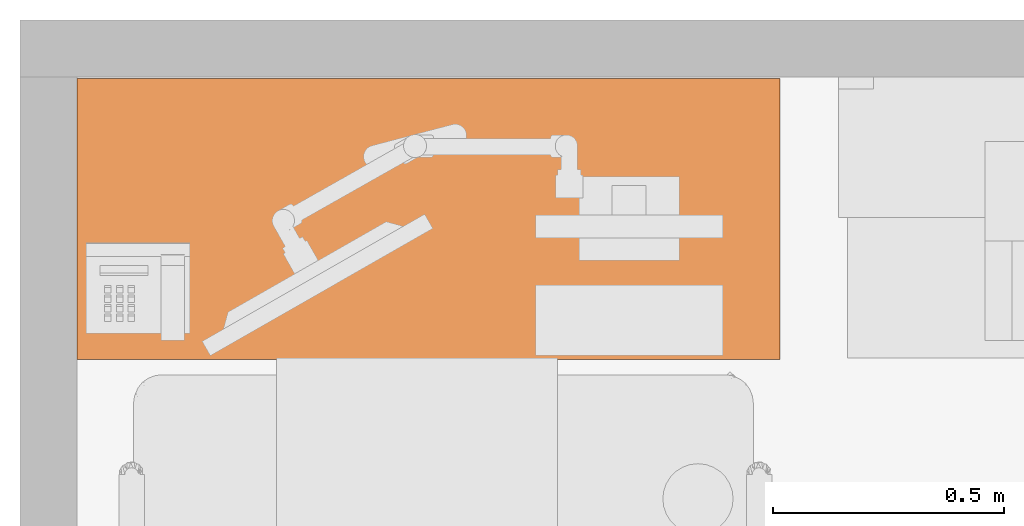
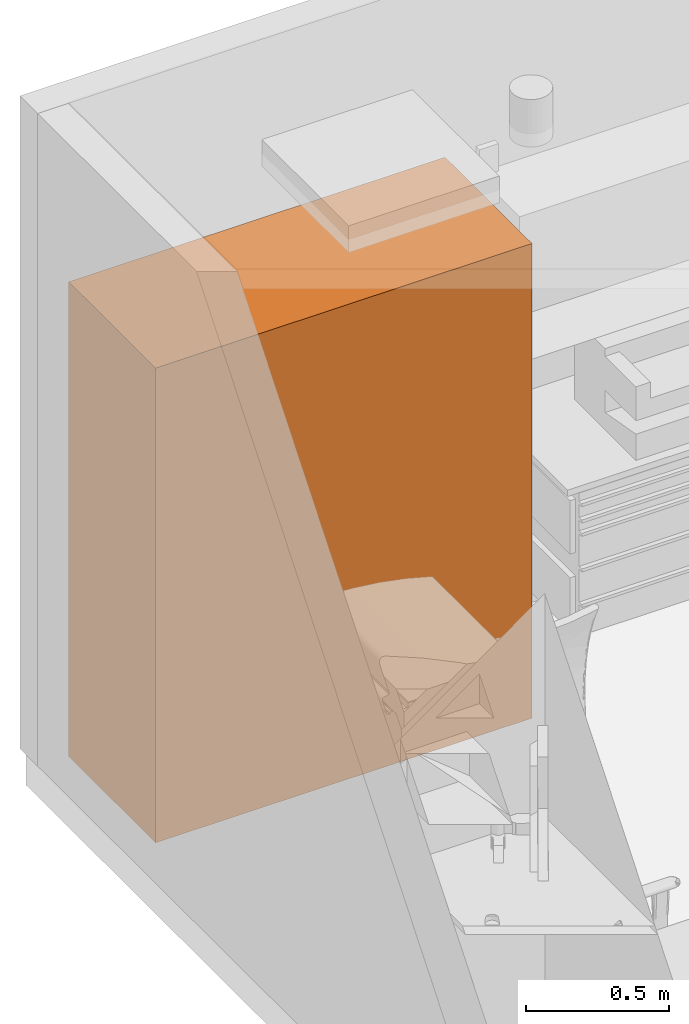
# One storey, part 12 of 15: 1 proxy.
"""IFC2X3 building model written with IfcOpenShell, lengths in feet."""

from ifc_helpers import new_model, entity, si_unit, converted_unit, derived_unit, direction, frame, origin, place, context, subcontext, project, spatial, face_set, surface_model, source, transform, mapped, material, type_object, type_shapes, element, save


model = new_model("IFC2X3")

# Units and contexts
model_context = context("Model", 3, precision=0.0001, world=origin(), true_north=direction((6.12303176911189e-17, 1.0)))
body_context = subcontext(model_context, "Body", "Model", "MODEL_VIEW")
ifc_project = project(units=[converted_unit("LENGTHUNIT", "FOOT", entity("IfcRatioMeasure", 0.3048), si_unit("LENGTHUNIT", "METRE"), dimensions=[1, 0, 0, 0, 0, 0, 0]), converted_unit("AREAUNIT", "SQUARE FOOT", entity("IfcRatioMeasure", 0.09290304), si_unit("AREAUNIT", "SQUARE_METRE"), dimensions=[2, 0, 0, 0, 0, 0, 0]), converted_unit("VOLUMEUNIT", "CUBIC FOOT", entity("IfcRatioMeasure", 0.028316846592), si_unit("VOLUMEUNIT", "CUBIC_METRE"), dimensions=[3, 0, 0, 0, 0, 0, 0]), converted_unit("PLANEANGLEUNIT", "DEGREE", entity("IfcRatioMeasure", 0.0174532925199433), si_unit("PLANEANGLEUNIT", "RADIAN"), dimensions=[0, 0, 0, 0, 0, 0, 0]), si_unit("MASSUNIT", "GRAM", prefix="KILO"), derived_unit("MASSDENSITYUNIT", [(si_unit("MASSUNIT", "GRAM", prefix="KILO"), 1), (si_unit("LENGTHUNIT", "METRE"), -3)]), si_unit("TIMEUNIT", "SECOND"), si_unit("FREQUENCYUNIT", "HERTZ"), si_unit("THERMODYNAMICTEMPERATUREUNIT", "DEGREE_CELSIUS"), derived_unit("THERMALTRANSMITTANCEUNIT", [(si_unit("MASSUNIT", "GRAM", prefix="KILO"), 1), (si_unit("THERMODYNAMICTEMPERATUREUNIT", "KELVIN"), -1), (si_unit("TIMEUNIT", "SECOND"), -3)]), derived_unit("VOLUMETRICFLOWRATEUNIT", [(si_unit("LENGTHUNIT", "METRE"), 3), (si_unit("TIMEUNIT", "SECOND"), -1)]), si_unit("ELECTRICCURRENTUNIT", "AMPERE"), si_unit("ELECTRICVOLTAGEUNIT", "VOLT"), si_unit("POWERUNIT", "WATT"), si_unit("FORCEUNIT", "NEWTON"), si_unit("ILLUMINANCEUNIT", "LUX"), si_unit("LUMINOUSFLUXUNIT", "LUMEN"), si_unit("LUMINOUSINTENSITYUNIT", "CANDELA"), derived_unit("USERDEFINED", [(si_unit("MASSUNIT", "GRAM", prefix="KILO"), -1), (si_unit("LENGTHUNIT", "METRE"), -2), (si_unit("TIMEUNIT", "SECOND"), 3), (si_unit("LUMINOUSFLUXUNIT", "LUMEN"), 1)]), derived_unit("LINEARVELOCITYUNIT", [(si_unit("LENGTHUNIT", "METRE"), 1), (si_unit("TIMEUNIT", "SECOND"), -1)]), si_unit("PRESSUREUNIT", "PASCAL"), derived_unit("USERDEFINED", [(si_unit("LENGTHUNIT", "METRE"), -2), (si_unit("MASSUNIT", "GRAM", prefix="KILO"), 1), (si_unit("TIMEUNIT", "SECOND"), -2)])], contexts=[model_context])

# Site, building, storey, space
site_placement = place(None, origin())
site = spatial("IfcSite", under=ifc_project, at=site_placement, Name="Default", CompositionType="ELEMENT")
building_placement = place(site_placement, origin())
building = spatial("IfcBuilding", under=site, at=building_placement, Name="EYE CLINIC:  OPTHALMOLOGY AND OPTOMETRY SERVICES (Ch. 233)", CompositionType="ELEMENT")
storey_placement = place(building_placement, origin())
storey = spatial("IfcBuildingStorey", under=building, at=storey_placement, Name="DATUM", CompositionType="ELEMENT", Elevation=0.0)
space_placement = place(storey_placement, origin())
space = spatial("IfcSpace", under=storey, at=space_placement, Name="(OPLV2)", CompositionType="ELEMENT", InteriorOrExteriorSpace="INTERNAL")

# Proxy
ifc_material = material(Name="EquipSpace")
building_element_proxy_type = type_object("IfcBuildingElementProxyType", Name="E0214 - Worksurface, with Overhead Cab, Wall Mtd, 60 W (1)", PredefinedType="NOTDEFINED", material=ifc_material)
shared_shape = source(origin(), body_context, "Body", "SurfaceModel", [
    surface_model("IfcFaceBasedSurfaceModel", [(2.41666666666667, -0.833333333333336, 2.9158857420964), (2.41666666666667, 0.916666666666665, 2.91588574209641), (2.41666666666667, 0.916666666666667, 1.99921907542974), (2.41666666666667, 0.812499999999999, 1.99921907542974), (2.41666666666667, 0.774755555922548, 2.00418822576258), (2.41666666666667, 0.739583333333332, 2.01875703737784), (2.41666666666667, 0.70938026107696, 2.04193266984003), (2.41666666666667, 0.686204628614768, 2.0721357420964), (2.41666666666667, 0.671635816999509, 2.10730796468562), (2.41666666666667, 0.666666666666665, 2.14505240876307), (2.41666666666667, 0.666666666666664, 2.74921907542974), (2.41666666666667, 0.663827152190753, 2.77078732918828), (2.41666666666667, 0.655502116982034, 2.7908857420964), (2.41666666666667, 0.64225889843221, 2.80814464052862), (2.41666666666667, 0.624999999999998, 2.82138785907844), (2.41666666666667, 0.604901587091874, 2.82971289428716), (2.41666666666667, 0.583333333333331, 2.83255240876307), (2.41666666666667, -0.779058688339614, 2.83255240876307), (2.41666666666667, -0.793106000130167, 2.83440177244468), (2.41666666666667, -0.806196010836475, 2.83982383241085), (2.41666666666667, -0.817436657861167, 2.84844908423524), (2.41666666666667, -0.826061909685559, 2.85968973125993), (2.41666666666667, -0.831483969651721, 2.87277974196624), (2.41666666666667, -0.833333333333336, 2.88682705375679), (2.5, 0.666666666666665, 2.14505240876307), (2.5, 0.671635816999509, 2.10730796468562), (2.5, 0.686204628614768, 2.0721357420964), (2.5, 0.70938026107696, 2.04193266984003), (2.5, 0.739583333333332, 2.01875703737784), (2.5, 0.774755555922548, 2.00418822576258), (2.5, 0.812499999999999, 1.99921907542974), (2.5, 0.916666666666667, 1.99921907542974), (2.5, 0.916666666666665, 2.91588574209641), (2.5, -0.833333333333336, 2.9158857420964), (2.5, -0.833333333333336, 2.88682705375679), (2.5, -0.831483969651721, 2.87277974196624), (2.5, -0.826061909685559, 2.85968973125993), (2.5, -0.817436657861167, 2.84844908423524), (2.5, -0.806196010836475, 2.83982383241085), (2.5, -0.793106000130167, 2.83440177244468), (2.5, -0.779058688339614, 2.83255240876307), (2.5, 0.583333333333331, 2.83255240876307), (2.5, 0.604901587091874, 2.82971289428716), (2.5, 0.624999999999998, 2.82138785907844), (2.5, 0.64225889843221, 2.80814464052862), (2.5, 0.655502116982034, 2.7908857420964), (2.5, 0.663827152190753, 2.77078732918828), (2.5, 0.666666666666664, 2.74921907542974), (-2.41666666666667, 0.666666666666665, 2.14505240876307), (-2.41666666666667, 0.671635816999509, 2.10730796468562), (-2.41666666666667, 0.686204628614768, 2.0721357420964), (-2.41666666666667, 0.709380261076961, 2.04193266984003), (-2.41666666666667, 0.739583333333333, 2.01875703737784), (-2.41666666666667, 0.774755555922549, 2.00418822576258), (-2.41666666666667, 0.812499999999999, 1.99921907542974), (-2.41666666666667, 0.916666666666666, 1.99921907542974), (-2.41666666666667, 0.916666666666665, 2.91588574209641), (-2.41666666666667, -0.833333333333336, 2.9158857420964), (-2.41666666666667, -0.833333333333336, 2.88682705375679), (-2.41666666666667, -0.831483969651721, 2.87277974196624), (-2.41666666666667, -0.826061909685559, 2.85968973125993), (-2.41666666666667, -0.817436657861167, 2.84844908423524), (-2.41666666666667, -0.806196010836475, 2.83982383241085), (-2.41666666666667, -0.793106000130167, 2.83440177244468), (-2.41666666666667, -0.779058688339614, 2.83255240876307), (-2.41666666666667, 0.583333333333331, 2.83255240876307), (-2.41666666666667, 0.604901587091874, 2.82971289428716), (-2.41666666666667, 0.624999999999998, 2.82138785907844), (-2.41666666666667, 0.64225889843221, 2.80814464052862), (-2.41666666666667, 0.655502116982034, 2.7908857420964), (-2.41666666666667, 0.663827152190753, 2.77078732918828), (-2.41666666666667, 0.666666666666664, 2.74921907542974), (-2.5, -0.833333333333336, 2.9158857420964), (-2.5, 0.916666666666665, 2.91588574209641), (-2.5, 0.916666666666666, 1.99921907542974), (-2.5, 0.812499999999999, 1.99921907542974), (-2.5, 0.774755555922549, 2.00418822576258), (-2.5, 0.739583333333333, 2.01875703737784), (-2.5, 0.709380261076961, 2.04193266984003), (-2.5, 0.686204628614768, 2.0721357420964), (-2.5, 0.671635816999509, 2.10730796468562), (-2.5, 0.666666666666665, 2.14505240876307), (-2.5, 0.666666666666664, 2.74921907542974), (-2.5, 0.663827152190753, 2.77078732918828), (-2.5, 0.655502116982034, 2.7908857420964), (-2.5, 0.64225889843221, 2.80814464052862), (-2.5, 0.624999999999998, 2.82138785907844), (-2.5, 0.604901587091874, 2.82971289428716), (-2.5, 0.583333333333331, 2.83255240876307), (-2.5, -0.779058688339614, 2.83255240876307), (-2.5, -0.793106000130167, 2.83440177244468), (-2.5, -0.806196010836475, 2.83982383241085), (-2.5, -0.817436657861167, 2.84844908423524), (-2.5, -0.826061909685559, 2.85968973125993), (-2.5, -0.831483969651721, 2.87277974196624), (-2.5, -0.833333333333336, 2.88682705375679), (2.5, -1.0, 2.99921907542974), (2.5, -1.0, 2.9158857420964), (2.5, 0.916666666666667, 2.91588574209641), (2.5, 0.916666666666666, 2.99921907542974), (-2.5, -1.0, 2.99921907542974), (-2.5, 0.916666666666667, 2.99921907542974), (-2.5, 0.916666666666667, 2.91588574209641), (-2.5, -1.0, 2.9158857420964), (0.0625000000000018, 0.0833333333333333, 4.62161490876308), (0.0625000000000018, 0.916666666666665, 4.62161490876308), (0.0625000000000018, 0.916666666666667, 3.95494824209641), (0.0625000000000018, 0.0833333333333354, 3.95494824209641), (2.41666666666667, 0.0833333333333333, 4.62161490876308), (2.41666666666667, 0.0833333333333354, 3.95494824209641), (2.41666666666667, 0.916666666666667, 3.95494824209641), (2.41666666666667, 0.916666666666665, 4.62161490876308), (0.121853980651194, 0.0833333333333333, 4.62161490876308), (0.121853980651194, 0.803690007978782, 4.62161490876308), (2.35416666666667, 0.803690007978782, 4.62161490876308), (2.35416666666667, 0.0833333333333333, 4.62161490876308), (2.35416666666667, 0.0833333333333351, 4.03828157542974), (0.121853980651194, 0.0833333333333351, 4.03828157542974), (-0.0625000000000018, 0.0833333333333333, 4.62161490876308), (-0.0625000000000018, 0.0833333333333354, 3.95494824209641), (-0.0625000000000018, 0.916666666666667, 3.95494824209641), (-0.0625000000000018, 0.916666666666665, 4.62161490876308), (-2.41666666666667, 0.0833333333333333, 4.62161490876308), (-2.41666666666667, 0.916666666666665, 4.62161490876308), (-2.41666666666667, 0.916666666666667, 3.95494824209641), (-2.41666666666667, 0.0833333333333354, 3.95494824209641), (-2.35416666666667, 0.0833333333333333, 4.62161490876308), (-2.35416666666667, 0.803690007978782, 4.62161490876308), (-0.121853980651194, 0.803690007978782, 4.62161490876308), (-0.121853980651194, 0.0833333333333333, 4.62161490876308), (-0.121853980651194, 0.0833333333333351, 4.03828157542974), (-2.35416666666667, 0.0833333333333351, 4.03828157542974), (-1.28125, -0.0833333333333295, 5.01744824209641), (-1.27983024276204, -0.0833333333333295, 5.02823236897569), (-1.27566772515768, -0.0833333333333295, 5.03828157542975), (-1.26904611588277, -0.0833333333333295, 5.04691102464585), (-1.26041666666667, -0.0833333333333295, 5.05353263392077), (-1.2503674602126, -0.0833333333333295, 5.05769515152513), (-1.23958333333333, -0.0833333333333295, 5.05911490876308), (-1.22879920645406, -0.0833333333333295, 5.05769515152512), (-1.21875, -0.0833333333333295, 5.05353263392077), (-1.21012055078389, -0.0833333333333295, 5.04691102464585), (-1.20349894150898, -0.0833333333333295, 5.03828157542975), (-1.19933642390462, -0.0833333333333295, 5.02823236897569), (-1.19791666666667, -0.0833333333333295, 5.01744824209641), (-1.19933642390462, -0.0833333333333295, 5.00666411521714), (-1.20349894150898, -0.0833333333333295, 4.99661490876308), (-1.21012055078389, -0.0833333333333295, 4.98798545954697), (-1.21875, -0.0833333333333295, 4.98136385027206), (-1.22879920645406, -0.0833333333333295, 4.9772013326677), (-1.23958333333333, -0.0833333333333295, 4.97578157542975), (-1.2503674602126, -0.0833333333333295, 4.9772013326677), (-1.26041666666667, -0.0833333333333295, 4.98136385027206), (-1.26904611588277, -0.0833333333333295, 4.98798545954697), (-1.27566772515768, -0.0833333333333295, 4.99661490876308), (-1.27983024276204, -0.0833333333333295, 5.00666411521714), (-1.28125, -0.109888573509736, 5.01744824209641), (-1.27983024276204, -0.109888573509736, 5.00666411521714), (-1.27566772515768, -0.109888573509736, 4.99661490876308), (-1.26904611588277, -0.109888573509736, 4.98798545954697), (-1.26041666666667, -0.109888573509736, 4.98136385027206), (-1.2503674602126, -0.109888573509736, 4.9772013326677), (-1.23958333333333, -0.109888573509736, 4.97578157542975), (-1.22879920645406, -0.109888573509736, 4.9772013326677), (-1.21875, -0.109888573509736, 4.98136385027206), (-1.21012055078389, -0.109888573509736, 4.98798545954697), (-1.20349894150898, -0.109888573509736, 4.99661490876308), (-1.19933642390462, -0.109888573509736, 5.00666411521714), (-1.19791666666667, -0.109888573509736, 5.01744824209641), (-1.19933642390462, -0.109888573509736, 5.02823236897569), (-1.20349894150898, -0.109888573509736, 5.03828157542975), (-1.21012055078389, -0.109888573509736, 5.04691102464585), (-1.21875, -0.109888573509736, 5.05353263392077), (-1.22879920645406, -0.109888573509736, 5.05769515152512), (-1.23958333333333, -0.109888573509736, 5.05911490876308), (-1.2503674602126, -0.109888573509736, 5.05769515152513), (-1.26041666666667, -0.109888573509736, 5.05353263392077), (-1.26904611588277, -0.109888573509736, 5.04691102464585), (-1.27566772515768, -0.109888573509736, 5.03828157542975), (-1.27983024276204, -0.109888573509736, 5.02823236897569), (1.28125, -0.0833333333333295, 5.01744824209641), (1.27983024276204, -0.0833333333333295, 5.00666411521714), (1.27566772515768, -0.0833333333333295, 4.99661490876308), (1.26904611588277, -0.0833333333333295, 4.98798545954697), (1.26041666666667, -0.0833333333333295, 4.98136385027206), (1.2503674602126, -0.0833333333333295, 4.9772013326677), (1.23958333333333, -0.0833333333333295, 4.97578157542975), (1.22879920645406, -0.0833333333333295, 4.9772013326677), (1.21875, -0.0833333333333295, 4.98136385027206), (1.21012055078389, -0.0833333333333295, 4.98798545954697), (1.20349894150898, -0.0833333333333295, 4.99661490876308), (1.19933642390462, -0.0833333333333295, 5.00666411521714), (1.19791666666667, -0.0833333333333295, 5.01744824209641), (1.19933642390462, -0.0833333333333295, 5.02823236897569), (1.20349894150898, -0.0833333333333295, 5.03828157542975), (1.21012055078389, -0.0833333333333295, 5.04691102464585), (1.21875, -0.0833333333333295, 5.05353263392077), (1.22879920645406, -0.0833333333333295, 5.05769515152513), (1.23958333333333, -0.0833333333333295, 5.05911490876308), (1.2503674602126, -0.0833333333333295, 5.05769515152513), (1.26041666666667, -0.0833333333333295, 5.05353263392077), (1.26904611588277, -0.0833333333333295, 5.04691102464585), (1.27566772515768, -0.0833333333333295, 5.03828157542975), (1.27983024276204, -0.0833333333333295, 5.02823236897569), (1.28125, -0.109888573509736, 5.01744824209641), (1.27983024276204, -0.109888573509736, 5.02823236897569), (1.27566772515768, -0.109888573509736, 5.03828157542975), (1.26904611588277, -0.109888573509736, 5.04691102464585), (1.26041666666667, -0.109888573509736, 5.05353263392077), (1.2503674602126, -0.109888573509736, 5.05769515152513), (1.23958333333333, -0.109888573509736, 5.05911490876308), (1.22879920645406, -0.109888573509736, 5.05769515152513), (1.21875, -0.109888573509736, 5.05353263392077), (1.21012055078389, -0.109888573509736, 5.04691102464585), (1.20349894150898, -0.109888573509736, 5.03828157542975), (1.19933642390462, -0.109888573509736, 5.02823236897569), (1.19791666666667, -0.109888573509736, 5.01744824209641), (1.19933642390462, -0.109888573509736, 5.00666411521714), (1.20349894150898, -0.109888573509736, 4.99661490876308), (1.21012055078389, -0.109888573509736, 4.98798545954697), (1.21875, -0.109888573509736, 4.98136385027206), (1.22879920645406, -0.109888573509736, 4.9772013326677), (1.23958333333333, -0.109888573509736, 4.97578157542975), (1.2503674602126, -0.109888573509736, 4.9772013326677), (1.26041666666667, -0.109888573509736, 4.98136385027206), (1.26904611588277, -0.109888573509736, 4.98798545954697), (1.27566772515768, -0.109888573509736, 4.99661490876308), (1.27983024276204, -0.109888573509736, 5.00666411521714), (2.5, 1.0, 6.66666666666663), (2.35416666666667, 1.0, 6.66666666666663), (2.35416666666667, 0.916666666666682, 6.66666666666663), (2.5, 0.916666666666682, 6.66666666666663), (2.5, 1.0, 0.0), (2.5, 0.916666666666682, 0.0), (2.35416666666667, 0.916666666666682, 0.0), (2.35416666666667, 1.0, 0.0), (0.0729166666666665, 1.0, 6.66666666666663), (-0.0729166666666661, 1.0, 6.66666666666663), (-0.0729166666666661, 0.916666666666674, 6.66666666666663), (0.0729166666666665, 0.916666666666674, 6.66666666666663), (0.0729166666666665, 1.0, 0.0), (0.0729166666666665, 0.916666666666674, 0.0), (-0.0729166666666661, 0.916666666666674, 0.0), (-0.0729166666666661, 1.0, 0.0), (2.41666666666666, 0.916666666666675, 6.37499999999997), (0.0624999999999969, 0.916666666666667, 6.37499999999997), (0.0624999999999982, -0.0833333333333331, 6.37499999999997), (2.41666666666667, -0.0833333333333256, 6.37499999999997), (2.41666666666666, 0.916666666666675, 4.95494824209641), (2.41666666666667, -0.0833333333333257, 4.95494824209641), (0.0624999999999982, -0.0833333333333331, 4.95494824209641), (0.0624999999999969, 0.916666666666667, 4.95494824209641), (-0.0625000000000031, 0.916666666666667, 6.37499999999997), (-2.41666666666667, 0.916666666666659, 6.37499999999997), (-2.41666666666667, -0.0833333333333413, 6.37499999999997), (-0.0625, -0.0833333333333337, 6.37499999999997), (-0.0625000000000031, 0.916666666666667, 4.95494824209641), (-0.0625, -0.0833333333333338, 4.95494824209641), (-2.41666666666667, -0.0833333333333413, 4.95494824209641), (-2.41666666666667, 0.916666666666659, 4.95494824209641), (-2.35416666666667, 1.0, 6.66666666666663), (-2.5, 1.0, 6.66666666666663), (-2.5, 0.916666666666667, 6.66666666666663), (-2.35416666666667, 0.916666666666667, 6.66666666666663), (-2.35416666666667, 1.0, 0.0), (-2.35416666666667, 0.916666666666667, 0.0), (-2.5, 0.916666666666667, 0.0), (-2.5, 1.0, 0.0)], [face_set([[[0, 1, 2, 3, 4, 5, 6, 7, 8, 9, 10, 11, 12, 13, 14, 15, 16, 17, 18, 19, 20, 21, 22, 23]], [[24, 25, 26, 27, 28, 29, 30, 31, 32, 33, 34, 35, 36, 37, 38, 39, 40, 41, 42, 43, 44, 45, 46, 47]], [[34, 33, 0, 23]], [[32, 1, 0, 33]], [[31, 2, 1, 32]], [[30, 3, 2, 31]], [[25, 24, 9, 8]], [[26, 25, 8, 7]], [[26, 7, 6, 27]], [[5, 28, 27, 6]], [[4, 29, 28, 5]], [[30, 29, 4, 3]], [[47, 10, 9, 24]], [[41, 16, 15, 42]], [[42, 15, 14, 43]], [[43, 14, 13, 44]], [[11, 10, 47, 46]], [[12, 11, 46, 45]], [[44, 13, 12, 45]], [[40, 17, 16, 41]], [[35, 34, 23, 22]], [[36, 35, 22, 21]], [[20, 37, 36, 21]], [[39, 38, 19, 18]], [[40, 39, 18, 17]], [[19, 38, 37, 20]]]), face_set([[[48, 49, 50, 51, 52, 53, 54, 55, 56, 57, 58, 59, 60, 61, 62, 63, 64, 65, 66, 67, 68, 69, 70, 71]], [[72, 73, 74, 75, 76, 77, 78, 79, 80, 81, 82, 83, 84, 85, 86, 87, 88, 89, 90, 91, 92, 93, 94, 95]], [[72, 95, 58, 57]], [[72, 57, 56, 73]], [[73, 56, 55, 74]], [[74, 55, 54, 75]], [[76, 75, 54, 53]], [[77, 76, 53, 52]], [[77, 52, 51, 78]], [[79, 78, 51, 50]], [[80, 79, 50, 49]], [[80, 49, 48, 81]], [[81, 48, 71, 82]], [[82, 71, 70, 83]], [[83, 70, 69, 84]], [[84, 69, 68, 85]], [[86, 67, 66, 87]], [[87, 66, 65, 88]], [[85, 68, 67, 86]], [[88, 65, 64, 89]], [[90, 89, 64, 63]], [[91, 62, 61, 92]], [[90, 63, 62, 91]], [[94, 93, 60, 59]], [[95, 94, 59, 58]], [[60, 93, 92, 61]]]), face_set([[[96, 97, 98, 99]], [[100, 101, 102, 103]], [[99, 101, 100, 96]], [[98, 102, 101, 99]], [[97, 103, 102, 98]], [[96, 100, 103, 97]]]), face_set([[[104, 105, 106, 107]], [[108, 109, 110, 111]], [[104, 112, 113, 114, 115, 108, 111, 105]], [[105, 111, 110, 106]], [[106, 110, 109, 107]], [[107, 109, 108, 115, 116, 117, 112, 104]], [[113, 112, 117]], [[116, 115, 114]], [[117, 116, 114, 113]]]), face_set([[[118, 119, 120, 121]], [[122, 123, 124, 125]], [[121, 123, 122, 126, 127, 128, 129, 118]], [[120, 124, 123, 121]], [[119, 125, 124, 120]], [[118, 129, 130, 131, 126, 122, 125, 119]], [[130, 129, 128]], [[127, 126, 131]], [[128, 127, 131, 130]]]), face_set([[[132, 133, 134, 135, 136, 137, 138, 139, 140, 141, 142, 143, 144, 145, 146, 147, 148, 149, 150, 151, 152, 153, 154, 155]], [[156, 157, 158, 159, 160, 161, 162, 163, 164, 165, 166, 167, 168, 169, 170, 171, 172, 173, 174, 175, 176, 177, 178, 179]], [[155, 157, 156, 132]], [[154, 158, 157, 155]], [[152, 160, 159, 153]], [[153, 159, 158, 154]], [[151, 161, 160, 152]], [[161, 151, 150, 162]], [[149, 163, 162, 150]], [[148, 164, 163, 149]], [[146, 166, 165, 147]], [[147, 165, 164, 148]], [[145, 167, 166, 146]], [[167, 145, 144, 168]], [[143, 169, 168, 144]], [[142, 170, 169, 143]], [[140, 172, 171, 141]], [[141, 171, 170, 142]], [[139, 173, 172, 140]], [[173, 139, 138, 174]], [[137, 175, 174, 138]], [[136, 176, 175, 137]], [[134, 178, 177, 135]], [[135, 177, 176, 136]], [[133, 179, 178, 134]], [[179, 133, 132, 156]]]), face_set([[[180, 181, 182, 183, 184, 185, 186, 187, 188, 189, 190, 191, 192, 193, 194, 195, 196, 197, 198, 199, 200, 201, 202, 203]], [[204, 205, 206, 207, 208, 209, 210, 211, 212, 213, 214, 215, 216, 217, 218, 219, 220, 221, 222, 223, 224, 225, 226, 227]], [[191, 217, 216, 192]], [[190, 218, 217, 191]], [[188, 220, 219, 189]], [[189, 219, 218, 190]], [[187, 221, 220, 188]], [[221, 187, 186, 222]], [[185, 223, 222, 186]], [[184, 224, 223, 185]], [[182, 226, 225, 183]], [[183, 225, 224, 184]], [[181, 227, 226, 182]], [[227, 181, 180, 204]], [[203, 205, 204, 180]], [[202, 206, 205, 203]], [[200, 208, 207, 201]], [[201, 207, 206, 202]], [[199, 209, 208, 200]], [[209, 199, 198, 210]], [[197, 211, 210, 198]], [[196, 212, 211, 197]], [[194, 214, 213, 195]], [[195, 213, 212, 196]], [[193, 215, 214, 194]], [[215, 193, 192, 216]]]), face_set([[[228, 229, 230, 231]], [[232, 233, 234, 235]], [[231, 233, 232, 228]], [[230, 234, 233, 231]], [[229, 235, 234, 230]], [[228, 232, 235, 229]]]), face_set([[[236, 237, 238, 239]], [[240, 241, 242, 243]], [[239, 241, 240, 236]], [[238, 242, 241, 239]], [[237, 243, 242, 238]], [[236, 240, 243, 237]]]), face_set([[[244, 245, 246, 247]], [[248, 249, 250, 251]], [[247, 249, 248, 244]], [[246, 250, 249, 247]], [[245, 251, 250, 246]], [[244, 248, 251, 245]]]), face_set([[[252, 253, 254, 255]], [[256, 257, 258, 259]], [[255, 257, 256, 252]], [[254, 258, 257, 255]], [[253, 259, 258, 254]], [[252, 256, 259, 253]]]), face_set([[[260, 261, 262, 263]], [[264, 265, 266, 267]], [[263, 265, 264, 260]], [[262, 266, 265, 263]], [[261, 267, 266, 262]], [[260, 264, 267, 261]]])]),
    surface_model("IfcFaceBasedSurfaceModel", [(-2.5, -1.0, 6.66666666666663), (2.5, -1.0, 6.66666666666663), (2.5, 1.0, 6.66666666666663), (-2.5, 1.0, 6.66666666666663), (-2.5, 0.0, 6.66666666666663), (-2.5, -1.0, 0.0), (-2.5, 0.0, 0.0), (-2.5, 1.0, 0.0), (2.5, 1.0, 0.0), (2.5, -1.0, 0.0), (-0.121853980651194, 0.803690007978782, 4.62161490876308), (-0.121853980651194, 0.0833333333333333, 4.62161490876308), (-0.121853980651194, 0.0833333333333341, 4.03828157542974), (-2.35416666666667, 0.803690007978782, 4.62161490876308), (-2.35416666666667, 0.0833333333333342, 4.03828157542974), (-2.35416666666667, 0.0833333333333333, 4.62161490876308), (0.121853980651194, 0.803690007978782, 4.62161490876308), (0.121853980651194, 0.0833333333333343, 4.03828157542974), (0.121853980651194, 0.0833333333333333, 4.62161490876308), (2.35416666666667, 0.803690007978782, 4.62161490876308), (2.35416666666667, 0.0833333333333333, 4.62161490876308), (2.35416666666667, 0.0833333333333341, 4.03828157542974)], [face_set([[[0, 1, 2, 3, 4]], [[5, 6, 7, 8, 9]], [[4, 6, 5, 0]], [[3, 7, 6, 4]], [[2, 8, 7, 3]], [[1, 9, 8, 2]], [[0, 5, 9, 1]]]), face_set([[[10, 11, 12]], [[13, 14, 15]], [[10, 13, 14, 12]], [[12, 11, 15, 14]], [[11, 10, 13, 15]]]), face_set([[[16, 17, 18]], [[19, 20, 21]], [[17, 21, 19, 16]], [[18, 17, 21, 20]], [[16, 18, 20, 19]]])]),
])
type_shapes(building_element_proxy_type, [shared_shape])
proxy_placement = place(space_placement, frame((337.306435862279, 10.2972090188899, 0.0)))
element("IfcBuildingElementProxy", 1, at=proxy_placement, inside=space, type_object=building_element_proxy_type, material=ifc_material, Name="E0214 - Worksurface, with Overhead Cab, Wall Mtd, 60 W:E0214 - Worksurface, with Overhead Cab, Wall Mtd, 60 W (1)", ObjectType="E0214 - Worksurface, with Overhead Cab, Wall Mtd, 60 W (1)", context=body_context, shape_type="MappedRepresentation", body=[
    mapped(shared_shape, transform((0.0, 0.0, 0.0), scale=1.0)),
])

save(model, "model.ifc")
